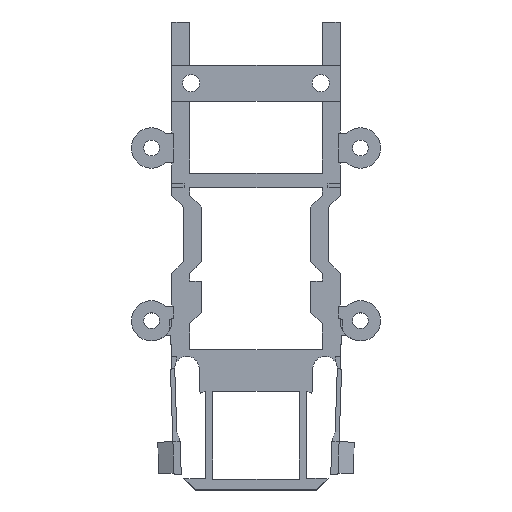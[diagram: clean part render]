
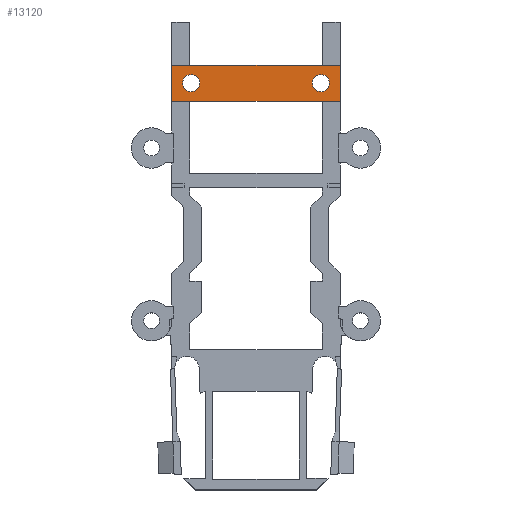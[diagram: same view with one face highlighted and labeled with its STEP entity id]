
A CAD part, top view. The second image highlights one B-rep face of the part: STEP entity #13120.
In plain terms, the highlighted planar face has unit normal (0, 0, 1).
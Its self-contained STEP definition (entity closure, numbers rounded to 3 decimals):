
#2121 = PLANE('',#2122);
#2122 = AXIS2_PLACEMENT_3D('',#2123,#2124,#2125);
#2123 = CARTESIAN_POINT('',(11.7,6.5,11.3));
#2124 = DIRECTION('',(1.,0.,-0.));
#2125 = DIRECTION('',(0.,0.,1.));
#2261 = VERTEX_POINT('',#2262);
#2262 = CARTESIAN_POINT('',(11.7,23.5,13.6));
#2276 = PLANE('',#2277);
#2277 = AXIS2_PLACEMENT_3D('',#2278,#2279,#2280);
#2278 = CARTESIAN_POINT('',(-11.7,23.5,11.3));
#2279 = DIRECTION('',(-0.,1.,0.));
#2280 = DIRECTION('',(0.,0.,1.));
#2288 = EDGE_CURVE('',#2289,#2261,#2291,.T.);
#2289 = VERTEX_POINT('',#2290);
#2290 = CARTESIAN_POINT('',(11.7,18.5,13.6));
#2291 = SURFACE_CURVE('',#2292,(#2296,#2303),.PCURVE_S1.);
#2292 = LINE('',#2293,#2294);
#2293 = CARTESIAN_POINT('',(11.7,18.5,13.6));
#2294 = VECTOR('',#2295,1.);
#2295 = DIRECTION('',(-0.,1.,0.));
#2296 = PCURVE('',#2121,#2297);
#2297 = DEFINITIONAL_REPRESENTATION('',(#2298),#2302);
#2298 = LINE('',#2299,#2300);
#2299 = CARTESIAN_POINT('',(2.3,-12.));
#2300 = VECTOR('',#2301,1.);
#2301 = DIRECTION('',(0.,-1.));
#2302 = ( GEOMETRIC_REPRESENTATION_CONTEXT(2) 
PARAMETRIC_REPRESENTATION_CONTEXT() REPRESENTATION_CONTEXT('2D SPACE',''
  ) );
#2303 = PCURVE('',#2304,#2309);
#2304 = PLANE('',#2305);
#2305 = AXIS2_PLACEMENT_3D('',#2306,#2307,#2308);
#2306 = CARTESIAN_POINT('',(-11.7,18.5,13.6));
#2307 = DIRECTION('',(0.,0.,1.));
#2308 = DIRECTION('',(1.,0.,-0.));
#2309 = DEFINITIONAL_REPRESENTATION('',(#2310),#2314);
#2310 = LINE('',#2311,#2312);
#2311 = CARTESIAN_POINT('',(23.4,0.));
#2312 = VECTOR('',#2313,1.);
#2313 = DIRECTION('',(0.,1.));
#2314 = ( GEOMETRIC_REPRESENTATION_CONTEXT(2) 
PARAMETRIC_REPRESENTATION_CONTEXT() REPRESENTATION_CONTEXT('2D SPACE',''
  ) );
#2330 = PLANE('',#2331);
#2331 = AXIS2_PLACEMENT_3D('',#2332,#2333,#2334);
#2332 = CARTESIAN_POINT('',(-11.7,18.5,11.3));
#2333 = DIRECTION('',(-0.,1.,0.));
#2334 = DIRECTION('',(0.,0.,1.));
#2422 = VERTEX_POINT('',#2423);
#2423 = CARTESIAN_POINT('',(-11.7,18.5,13.6));
#2437 = PLANE('',#2438);
#2438 = AXIS2_PLACEMENT_3D('',#2439,#2440,#2441);
#2439 = CARTESIAN_POINT('',(-11.7,6.5,11.3));
#2440 = DIRECTION('',(1.,0.,-0.));
#2441 = DIRECTION('',(0.,0.,1.));
#2449 = EDGE_CURVE('',#2422,#2289,#2450,.T.);
#2450 = SURFACE_CURVE('',#2451,(#2455,#2462),.PCURVE_S1.);
#2451 = LINE('',#2452,#2453);
#2452 = CARTESIAN_POINT('',(-11.7,18.5,13.6));
#2453 = VECTOR('',#2454,1.);
#2454 = DIRECTION('',(1.,0.,-0.));
#2455 = PCURVE('',#2330,#2456);
#2456 = DEFINITIONAL_REPRESENTATION('',(#2457),#2461);
#2457 = LINE('',#2458,#2459);
#2458 = CARTESIAN_POINT('',(2.3,0.));
#2459 = VECTOR('',#2460,1.);
#2460 = DIRECTION('',(0.,1.));
#2461 = ( GEOMETRIC_REPRESENTATION_CONTEXT(2) 
PARAMETRIC_REPRESENTATION_CONTEXT() REPRESENTATION_CONTEXT('2D SPACE',''
  ) );
#2462 = PCURVE('',#2304,#2463);
#2463 = DEFINITIONAL_REPRESENTATION('',(#2464),#2468);
#2464 = LINE('',#2465,#2466);
#2465 = CARTESIAN_POINT('',(0.,0.));
#2466 = VECTOR('',#2467,1.);
#2467 = DIRECTION('',(1.,0.));
#2468 = ( GEOMETRIC_REPRESENTATION_CONTEXT(2) 
PARAMETRIC_REPRESENTATION_CONTEXT() REPRESENTATION_CONTEXT('2D SPACE',''
  ) );
#2801 = VERTEX_POINT('',#2802);
#2802 = CARTESIAN_POINT('',(-11.7,23.5,13.6));
#2823 = EDGE_CURVE('',#2422,#2801,#2824,.T.);
#2824 = SURFACE_CURVE('',#2825,(#2829,#2836),.PCURVE_S1.);
#2825 = LINE('',#2826,#2827);
#2826 = CARTESIAN_POINT('',(-11.7,18.5,13.6));
#2827 = VECTOR('',#2828,1.);
#2828 = DIRECTION('',(-0.,1.,0.));
#2829 = PCURVE('',#2437,#2830);
#2830 = DEFINITIONAL_REPRESENTATION('',(#2831),#2835);
#2831 = LINE('',#2832,#2833);
#2832 = CARTESIAN_POINT('',(2.3,-12.));
#2833 = VECTOR('',#2834,1.);
#2834 = DIRECTION('',(0.,-1.));
#2835 = ( GEOMETRIC_REPRESENTATION_CONTEXT(2) 
PARAMETRIC_REPRESENTATION_CONTEXT() REPRESENTATION_CONTEXT('2D SPACE',''
  ) );
#2836 = PCURVE('',#2304,#2837);
#2837 = DEFINITIONAL_REPRESENTATION('',(#2838),#2842);
#2838 = LINE('',#2839,#2840);
#2839 = CARTESIAN_POINT('',(0.,0.));
#2840 = VECTOR('',#2841,1.);
#2841 = DIRECTION('',(0.,1.));
#2842 = ( GEOMETRIC_REPRESENTATION_CONTEXT(2) 
PARAMETRIC_REPRESENTATION_CONTEXT() REPRESENTATION_CONTEXT('2D SPACE',''
  ) );
#13120 = ADVANCED_FACE('',(#13121,#13147,#13178),#2304,.T.);
#13121 = FACE_BOUND('',#13122,.T.);
#13122 = EDGE_LOOP('',(#13123,#13124,#13125,#13126));
#13123 = ORIENTED_EDGE('',*,*,#2823,.F.);
#13124 = ORIENTED_EDGE('',*,*,#2449,.T.);
#13125 = ORIENTED_EDGE('',*,*,#2288,.T.);
#13126 = ORIENTED_EDGE('',*,*,#13127,.F.);
#13127 = EDGE_CURVE('',#2801,#2261,#13128,.T.);
#13128 = SURFACE_CURVE('',#13129,(#13133,#13140),.PCURVE_S1.);
#13129 = LINE('',#13130,#13131);
#13130 = CARTESIAN_POINT('',(-11.7,23.5,13.6));
#13131 = VECTOR('',#13132,1.);
#13132 = DIRECTION('',(1.,0.,-0.));
#13133 = PCURVE('',#2304,#13134);
#13134 = DEFINITIONAL_REPRESENTATION('',(#13135),#13139);
#13135 = LINE('',#13136,#13137);
#13136 = CARTESIAN_POINT('',(0.,5.));
#13137 = VECTOR('',#13138,1.);
#13138 = DIRECTION('',(1.,0.));
#13139 = ( GEOMETRIC_REPRESENTATION_CONTEXT(2) 
PARAMETRIC_REPRESENTATION_CONTEXT() REPRESENTATION_CONTEXT('2D SPACE',''
  ) );
#13140 = PCURVE('',#2276,#13141);
#13141 = DEFINITIONAL_REPRESENTATION('',(#13142),#13146);
#13142 = LINE('',#13143,#13144);
#13143 = CARTESIAN_POINT('',(2.3,0.));
#13144 = VECTOR('',#13145,1.);
#13145 = DIRECTION('',(0.,1.));
#13146 = ( GEOMETRIC_REPRESENTATION_CONTEXT(2) 
PARAMETRIC_REPRESENTATION_CONTEXT() REPRESENTATION_CONTEXT('2D SPACE',''
  ) );
#13147 = FACE_BOUND('',#13148,.T.);
#13148 = EDGE_LOOP('',(#13149));
#13149 = ORIENTED_EDGE('',*,*,#13150,.F.);
#13150 = EDGE_CURVE('',#13151,#13151,#13153,.T.);
#13151 = VERTEX_POINT('',#13152);
#13152 = CARTESIAN_POINT('',(-7.8,21.,13.6));
#13153 = SURFACE_CURVE('',#13154,(#13159,#13166),.PCURVE_S1.);
#13154 = CIRCLE('',#13155,1.2);
#13155 = AXIS2_PLACEMENT_3D('',#13156,#13157,#13158);
#13156 = CARTESIAN_POINT('',(-9.,21.,13.6));
#13157 = DIRECTION('',(0.,0.,1.));
#13158 = DIRECTION('',(1.,0.,-0.));
#13159 = PCURVE('',#2304,#13160);
#13160 = DEFINITIONAL_REPRESENTATION('',(#13161),#13165);
#13161 = CIRCLE('',#13162,1.2);
#13162 = AXIS2_PLACEMENT_2D('',#13163,#13164);
#13163 = CARTESIAN_POINT('',(2.7,2.5));
#13164 = DIRECTION('',(1.,0.));
#13165 = ( GEOMETRIC_REPRESENTATION_CONTEXT(2) 
PARAMETRIC_REPRESENTATION_CONTEXT() REPRESENTATION_CONTEXT('2D SPACE',''
  ) );
#13166 = PCURVE('',#13167,#13172);
#13167 = CYLINDRICAL_SURFACE('',#13168,1.2);
#13168 = AXIS2_PLACEMENT_3D('',#13169,#13170,#13171);
#13169 = CARTESIAN_POINT('',(-9.,21.,11.2));
#13170 = DIRECTION('',(0.,0.,1.));
#13171 = DIRECTION('',(1.,0.,-0.));
#13172 = DEFINITIONAL_REPRESENTATION('',(#13173),#13177);
#13173 = LINE('',#13174,#13175);
#13174 = CARTESIAN_POINT('',(0.,2.4));
#13175 = VECTOR('',#13176,1.);
#13176 = DIRECTION('',(1.,0.));
#13177 = ( GEOMETRIC_REPRESENTATION_CONTEXT(2) 
PARAMETRIC_REPRESENTATION_CONTEXT() REPRESENTATION_CONTEXT('2D SPACE',''
  ) );
#13178 = FACE_BOUND('',#13179,.T.);
#13179 = EDGE_LOOP('',(#13180));
#13180 = ORIENTED_EDGE('',*,*,#13181,.F.);
#13181 = EDGE_CURVE('',#13182,#13182,#13184,.T.);
#13182 = VERTEX_POINT('',#13183);
#13183 = CARTESIAN_POINT('',(10.2,21.,13.6));
#13184 = SURFACE_CURVE('',#13185,(#13190,#13197),.PCURVE_S1.);
#13185 = CIRCLE('',#13186,1.2);
#13186 = AXIS2_PLACEMENT_3D('',#13187,#13188,#13189);
#13187 = CARTESIAN_POINT('',(9.,21.,13.6));
#13188 = DIRECTION('',(0.,0.,1.));
#13189 = DIRECTION('',(1.,0.,-0.));
#13190 = PCURVE('',#2304,#13191);
#13191 = DEFINITIONAL_REPRESENTATION('',(#13192),#13196);
#13192 = CIRCLE('',#13193,1.2);
#13193 = AXIS2_PLACEMENT_2D('',#13194,#13195);
#13194 = CARTESIAN_POINT('',(20.7,2.5));
#13195 = DIRECTION('',(1.,0.));
#13196 = ( GEOMETRIC_REPRESENTATION_CONTEXT(2) 
PARAMETRIC_REPRESENTATION_CONTEXT() REPRESENTATION_CONTEXT('2D SPACE',''
  ) );
#13197 = PCURVE('',#13198,#13203);
#13198 = CYLINDRICAL_SURFACE('',#13199,1.2);
#13199 = AXIS2_PLACEMENT_3D('',#13200,#13201,#13202);
#13200 = CARTESIAN_POINT('',(9.,21.,11.2));
#13201 = DIRECTION('',(0.,0.,1.));
#13202 = DIRECTION('',(1.,0.,-0.));
#13203 = DEFINITIONAL_REPRESENTATION('',(#13204),#13208);
#13204 = LINE('',#13205,#13206);
#13205 = CARTESIAN_POINT('',(0.,2.4));
#13206 = VECTOR('',#13207,1.);
#13207 = DIRECTION('',(1.,0.));
#13208 = ( GEOMETRIC_REPRESENTATION_CONTEXT(2) 
PARAMETRIC_REPRESENTATION_CONTEXT() REPRESENTATION_CONTEXT('2D SPACE',''
  ) );
